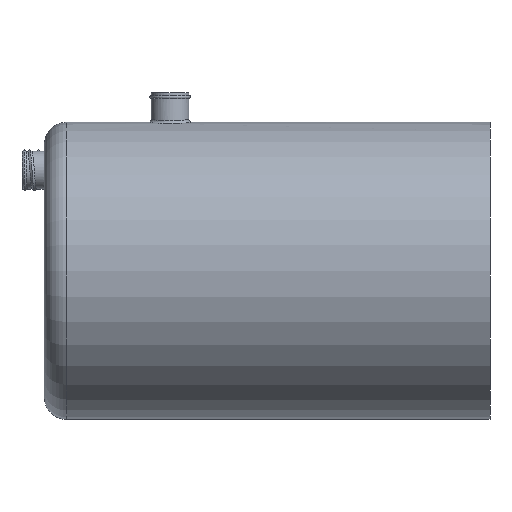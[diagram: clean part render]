
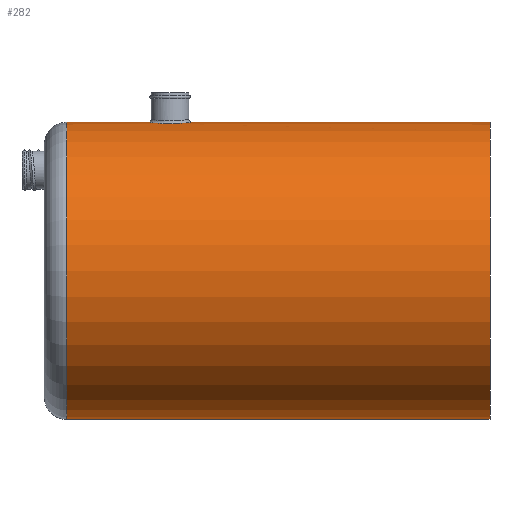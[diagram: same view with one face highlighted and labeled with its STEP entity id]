
A CAD part, front view. The second image highlights one B-rep face of the part: STEP entity #282.
In plain terms, the highlighted cylindrical face has radius 100 mm (diameter 200 mm), a full revolution.
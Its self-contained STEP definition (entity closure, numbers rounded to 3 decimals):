
#40=FACE_BOUND('',#94,.T.);
#41=FACE_BOUND('',#95,.T.);
#60=CYLINDRICAL_SURFACE('',#314,100.);
#69=FACE_OUTER_BOUND('',#93,.T.);
#93=EDGE_LOOP('',(#221));
#94=EDGE_LOOP('',(#222));
#95=EDGE_LOOP('',(#223));
#134=B_SPLINE_CURVE_WITH_KNOTS('',3,(#548,#549,#550,#551,#552,#553,#554,
#555,#556,#557,#558,#559,#560,#561,#562,#563,#564,#565),.UNSPECIFIED.,.T.,
 .F.,(4,1,1,1,1,1,1,1,1,1,1,1,1,1,1,4),(-13.411,-12.863,
-12.316,-11.768,-11.221,-10.856,
-10.126,-9.944,-9.761,-9.032,
-8.484,-7.937,-7.389,-6.842,
-6.295,-5.747),.UNSPECIFIED.);
#141=CIRCLE('',#315,100.);
#142=CIRCLE('',#316,100.);
#158=VERTEX_POINT('',#527);
#161=VERTEX_POINT('',#570);
#162=VERTEX_POINT('',#572);
#186=EDGE_CURVE('',#158,#158,#134,.T.);
#188=EDGE_CURVE('',#161,#161,#141,.T.);
#189=EDGE_CURVE('',#162,#162,#142,.T.);
#221=ORIENTED_EDGE('',*,*,#188,.F.);
#222=ORIENTED_EDGE('',*,*,#189,.T.);
#223=ORIENTED_EDGE('',*,*,#186,.F.);
#282=ADVANCED_FACE('',(#69,#40,#41),#60,.T.);
#314=AXIS2_PLACEMENT_3D('',#569,#358,#359);
#315=AXIS2_PLACEMENT_3D('',#571,#360,#361);
#316=AXIS2_PLACEMENT_3D('',#573,#362,#363);
#358=DIRECTION('center_axis',(-1.,0.,0.));
#359=DIRECTION('ref_axis',(0.,0.,1.));
#360=DIRECTION('center_axis',(-1.,0.,0.));
#361=DIRECTION('ref_axis',(0.,0.,1.));
#362=DIRECTION('center_axis',(-1.,0.,0.));
#363=DIRECTION('ref_axis',(0.,0.,1.));
#527=CARTESIAN_POINT('',(-200.63,0.,0.));
#548=CARTESIAN_POINT('Ctrl Pts',(-200.629,0.,0.));
#549=CARTESIAN_POINT('Ctrl Pts',(-200.629,2.158,0.));
#550=CARTESIAN_POINT('Ctrl Pts',(-201.637,6.475,-0.149));
#551=CARTESIAN_POINT('Ctrl Pts',(-205.848,11.649,-0.653));
#552=CARTESIAN_POINT('Ctrl Pts',(-211.941,14.531,-1.06));
#553=CARTESIAN_POINT('Ctrl Pts',(-217.963,14.527,-1.059));
#554=CARTESIAN_POINT('Ctrl Pts',(-224.177,12.136,-0.722));
#555=CARTESIAN_POINT('Ctrl Pts',(-227.822,8.299,-0.297));
#556=CARTESIAN_POINT('Ctrl Pts',(-229.427,4.269,-0.084));
#557=CARTESIAN_POINT('Ctrl Pts',(-230.421,0.05,0.058));
#558=CARTESIAN_POINT('Ctrl Pts',(-229.498,-5.9,-0.09));
#559=CARTESIAN_POINT('Ctrl Pts',(-224.807,-11.648,-0.654));
#560=CARTESIAN_POINT('Ctrl Pts',(-218.721,-14.531,-1.059));
#561=CARTESIAN_POINT('Ctrl Pts',(-211.939,-14.53,-1.06));
#562=CARTESIAN_POINT('Ctrl Pts',(-205.849,-11.65,-0.653));
#563=CARTESIAN_POINT('Ctrl Pts',(-201.637,-6.475,-0.149));
#564=CARTESIAN_POINT('Ctrl Pts',(-200.629,-2.158,0.));
#565=CARTESIAN_POINT('Ctrl Pts',(-200.629,0.,0.));
#569=CARTESIAN_POINT('Origin',(-142.5,0.,-100.));
#570=CARTESIAN_POINT('',(-285.,0.,0.));
#571=CARTESIAN_POINT('Origin',(-285.,0.,-100.));
#572=CARTESIAN_POINT('',(0.,0.,0.));
#573=CARTESIAN_POINT('Origin',(0.,0.,-100.));
